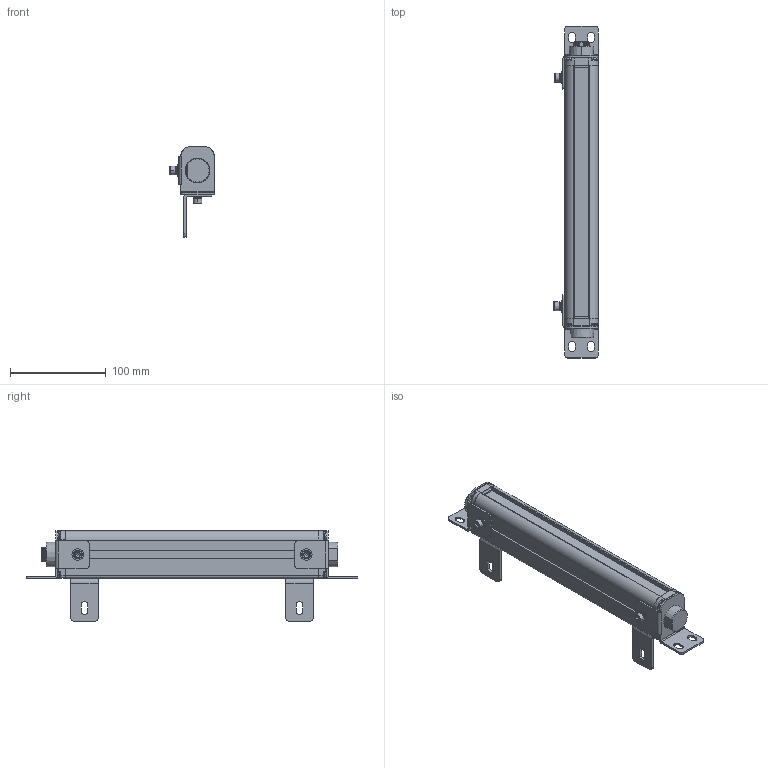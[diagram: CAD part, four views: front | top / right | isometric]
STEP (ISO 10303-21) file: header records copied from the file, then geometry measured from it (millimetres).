
FILE_DESCRIPTION((''),'2;1');
FILE_NAME('ESN--000_ASM','2021-08-10T21:11:50',('18720616900'),(''),'CREO PARAMETRIC BY PTC INC, 2019010','CREO PARAMETRIC BY PTC INC, 2019010','');
FILE_SCHEMA(('CONFIG_CONTROL_DESIGN'));
Products named in the file (22): 00; 000; _0002; _0003; _0004; 5000; 5--0001; ESN_50001_ASM; ST-3-120001; L10001; M6-8--0001; M6-1--00; M6-1-00; M6-80001_ASM; L1--0001_ASM; H1--000; H1--0003_ASM; H1--0001_ASM; ESN--000_ASM
Assembly tree (35 placements, depth 4):
  ESN--000_ASM
    00
    000
    _0002
    _0003
    _0004
    000
    ESN_50001_ASM
      5000
      5--0001  x5
    ST-3-120001  x8
    L1--0001_ASM  x2
      L10001
      M6-80001_ASM
        M6-8--0001
        M6-1--00
        M6-1-00
        00
    H1--0003_ASM
      H1--000
      M6-80001_ASM
        M6-8--0001
        M6-1--00
        M6-1-00
        00
    H1--0001_ASM
      H1--000
      M6-80001_ASM
        M6-8--0001
        M6-1--00
        M6-1-00
        00
Bounding box: 46.5 x 347 x 94.95 mm (x, y, z)
Volume: 451338.4 mm3; surface area: 126764.4 mm2
Topology: 40 solids, 40 shells, 1785 faces, 4708 edges, 3012 vertices
Faces by surface type: plane 583, cylinder 416, bspline 362, cone 291, torus 107, sphere 26
Entity records: 48222 total; most frequent: CARTESIAN_POINT 24957, ORIENTED_EDGE 5136, DIRECTION 4189, EDGE_CURVE 2568, VERTEX_POINT 1669, AXIS2_PLACEMENT_3D 1488, VECTOR 1213, LINE 1213
